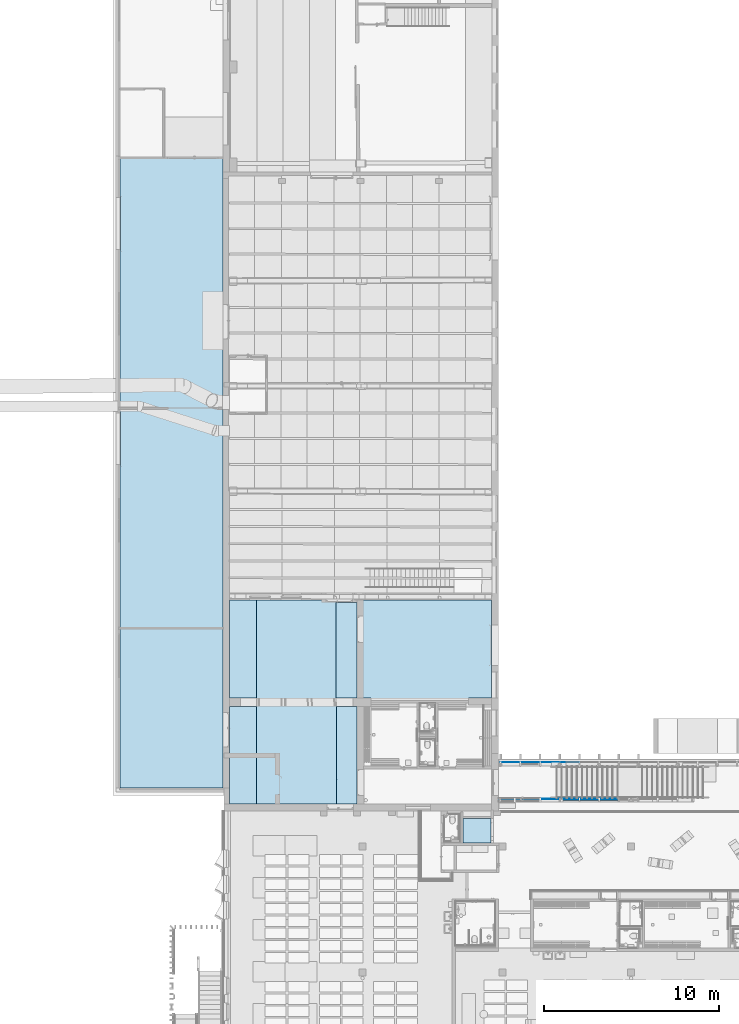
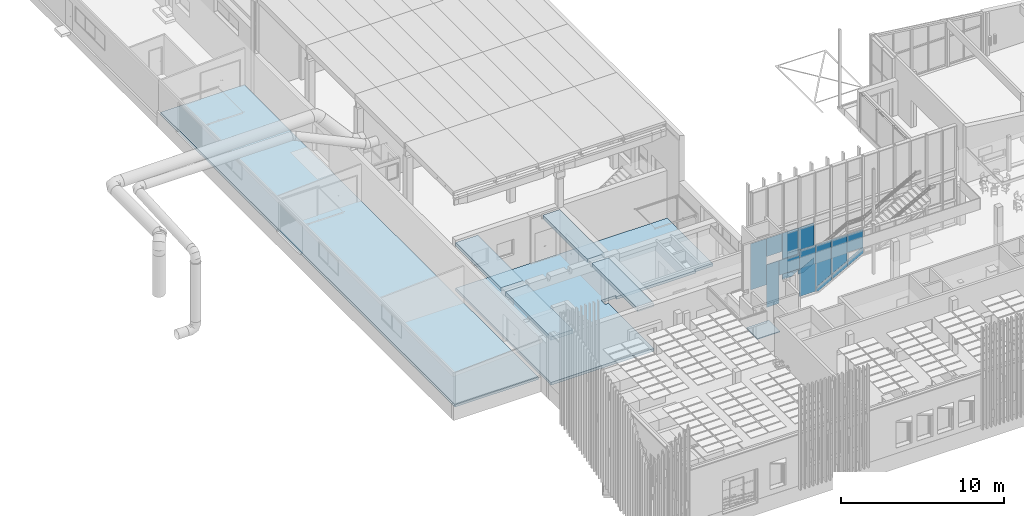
# One storey, part 73 of 301: 14 plates, 6 slabs, 2 elements without a shape of their own.
"""IFC2X3 building model written with IfcOpenShell, lengths in millimetres."""

from ifc_helpers import new_model, entity, si_unit, converted_unit, derived_unit, money_unit, direction, frame, origin_with_axes, place, context, subcontext, project, spatial, faceted_brep, material, type_object, element, aggregate, save


model = new_model("IFC2X3")

# Units and contexts
model_context = context("Model", 3, precision=0.01, world=origin_with_axes(), true_north=direction((0.0, 1.0)))
body_context = subcontext(model_context, "Body", "Model", "MODEL_VIEW")
ifc_project = project(units=[si_unit("LENGTHUNIT", "METRE", prefix="MILLI"), si_unit("AREAUNIT", "SQUARE_METRE"), si_unit("VOLUMEUNIT", "CUBIC_METRE"), converted_unit("PLANEANGLEUNIT", "DEGREE", entity("IfcPlaneAngleMeasure", 0.0174532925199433), si_unit("PLANEANGLEUNIT", "RADIAN"), dimensions=[0, 0, 0, 0, 0, 0, 0]), money_unit("EUR"), converted_unit("TIMEUNIT", "Year", entity("IfcTimeMeasure", 31557600.0), si_unit("TIMEUNIT", "SECOND"), dimensions=[0, 0, 1, 0, 0, 0, 0]), si_unit("MASSUNIT", "GRAM", prefix="KILO"), si_unit("THERMODYNAMICTEMPERATUREUNIT", "DEGREE_CELSIUS"), si_unit("LUMINOUSINTENSITYUNIT", "LUMEN"), si_unit("ENERGYUNIT", "JOULE", prefix="MEGA"), derived_unit("THERMALCONDUCTANCEUNIT", [(si_unit("POWERUNIT", "WATT"), 1), (si_unit("LENGTHUNIT", "METRE"), -1), (si_unit("THERMODYNAMICTEMPERATUREUNIT", "KELVIN"), -1)]), derived_unit("SPECIFICHEATCAPACITYUNIT", [(si_unit("ENERGYUNIT", "JOULE"), 1), (si_unit("MASSUNIT", "GRAM", prefix="KILO"), -1), (si_unit("THERMODYNAMICTEMPERATUREUNIT", "KELVIN"), -1)]), derived_unit("MASSDENSITYUNIT", [(si_unit("MASSUNIT", "GRAM", prefix="KILO"), 1), (si_unit("VOLUMEUNIT", "CUBIC_METRE"), -1)])], contexts=[model_context])

# Site, building, storey
site_placement = place(None, frame((0.0, 0.0, 8650.0), z_axis=(0.0, 0.0, 1.0), x_axis=(1.0, 0.0, 0.0)))
site = spatial("IfcSite", under=ifc_project, at=site_placement, Name="43301:001:0844", CompositionType="ELEMENT")
building_placement = place(site_placement, origin_with_axes())
building = spatial("IfcBuilding", under=site, at=building_placement, Name="Kuressaare Ametikooli tuulikute mehaanikute õppekorpus", CompositionType="ELEMENT")
storey_placement = place(building_placement, origin_with_axes())
storey = spatial("IfcBuildingStorey", under=building, at=storey_placement, Name="1.korrus", CompositionType="ELEMENT", Elevation=0.0)

# Curtain wall, plates
curtain_wall_type = type_object("IfcCurtainWallType", Name="Curtain Wall Type", PredefinedType="NOTDEFINED")
curtain_wall_1_placement = place(storey_placement, frame((116704.6026822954, 28579.57374875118, 35.00000000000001), z_axis=(0.0, 0.0, 1.0), x_axis=(1.0, 0.0, 0.0)))
curtain_wall_1 = element("IfcCurtainWall", 1, at=curtain_wall_1_placement, inside=storey, type_object=curtain_wall_type, Name="KF-1.1")
ifc_material_1 = material(Name="Klaas")
plate_type_1 = type_object("IfcPlateType", Name="Main Panel 1115 x 3460 x 20", PredefinedType="NOTDEFINED")
plate_1_placement = place(curtain_wall_1_placement, frame((-12262.5, 0.0, 1807.999995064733), z_axis=(0.0, 0.0, 1.0), x_axis=(-1.0, 0.0, 0.0)))
plate_1 = element("IfcPlate", 2, at=plate_1_placement, type_object=plate_type_1, material=ifc_material_1, context=body_context, shape_type="Brep", body=[
    faceted_brep([(-444.9999905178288, 10.00000000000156, 1656.999990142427), (-444.9999905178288, -10.00000000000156, 1656.999990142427), (669.9999771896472, -10.00000000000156, 1656.999990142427), (669.9999771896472, 10.00000000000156, 1656.999990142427), (-444.9999905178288, 10.00000000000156, 291.9999677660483), (-444.9999905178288, -10.00000000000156, 291.9999677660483), (-444.9999905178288, -10.00000000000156, -1802.999972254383), (669.9999771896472, -10.00000000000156, -1802.999972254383), (669.9999771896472, 10.00000000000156, -1802.999972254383), (-444.9999905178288, 10.00000000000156, -1802.999972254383)], [[[0, 1, 2, 3]], [[4, 5, 1, 0]], [[1, 5, 6, 7, 2]], [[3, 2, 7, 8]], [[0, 3, 8, 9, 4]], [[9, 6, 5, 4]], [[8, 7, 6, 9]]]),
])
ifc_material_2 = material(Name="Aluminium")
plate_type_2 = type_object("IfcPlateType", Name="361 x 252 x 20", PredefinedType="NOTDEFINED")
plate_2_placement = place(curtain_wall_1_placement, frame((-9039.065135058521, 0.0, 308.7724812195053), z_axis=(0.0, 0.0, 1.0), x_axis=(-1.0, 0.0, 0.0)))
plate_2 = element("IfcPlate", 3, at=plate_2_placement, type_object=plate_type_2, material=ifc_material_2, context=body_context, shape_type="Brep", body=[
    faceted_brep([(-596.5651406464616, 10.00000000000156, 554.5637485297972), (-596.5651406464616, -10.00000000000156, 554.5637485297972), (518.4348705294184, -10.00000000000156, -51.65177387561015), (518.4348705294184, 10.00000000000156, -51.65177387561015), (-596.5651406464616, 10.00000000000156, 106.2233166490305), (-596.5651406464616, -10.00000000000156, 106.2233166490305), (157.5319040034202, -10.00000000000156, -303.7724868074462), (518.4348705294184, -10.00000000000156, -303.7724868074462), (518.4348705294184, 10.00000000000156, -303.7724868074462), (157.5319040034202, 10.00000000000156, -303.7724868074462)], [[[0, 1, 2, 3]], [[4, 5, 1, 0]], [[1, 5, 6, 7, 2]], [[3, 2, 7, 8]], [[0, 3, 8, 9, 4]], [[9, 6, 5, 4]], [[8, 7, 6, 9]]]),
])
plate_type_3 = type_object("IfcPlateType", Name="Main Panel 1115 x 1360 x 20", PredefinedType="NOTDEFINED")
plate_3_placement = place(curtain_wall_1_placement, frame((-11250.0, 0.0, 2784.999983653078), z_axis=(0.0, 0.0, 1.0), x_axis=(-1.0, 0.0, 0.0)))
plate_3 = element("IfcPlate", 4, at=plate_3_placement, type_object=plate_type_3, material=ifc_material_1, context=body_context, shape_type="Brep", body=[
    faceted_brep([(-557.5000069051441, 10.00000000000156, 680.000016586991), (-557.5000069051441, -10.00000000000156, 680.000016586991), (557.4999922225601, -10.00000000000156, 680.000016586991), (557.4999922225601, 10.00000000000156, 680.000016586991), (-557.5000069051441, 10.00000000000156, -680.0000165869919), (-557.5000069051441, -10.00000000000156, -680.0000165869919), (557.4999922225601, -10.00000000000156, -680.0000165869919), (557.4999922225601, 10.00000000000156, -680.0000165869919)], [[[0, 1, 2, 3]], [[4, 5, 1, 0]], [[1, 5, 6, 2]], [[3, 2, 6, 7]], [[0, 3, 7, 4]], [[7, 6, 5, 4]]]),
])
plate_type_4 = type_object("IfcPlateType", Name="Main Panel 1115 x 1365 x 20", PredefinedType="NOTDEFINED")
plate_4_placement = place(curtain_wall_1_placement, frame((-10204.73078716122, 0.0, 1550.015576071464), z_axis=(0.0, 0.0, 1.0), x_axis=(-1.0, 0.0, 0.0)))
plate_4 = element("IfcPlate", 5, at=plate_4_placement, type_object=plate_type_4, material=ifc_material_1, context=body_context, shape_type="Brep", body=[
    faceted_brep([(-637.2307776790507, 10.00000000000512, 1914.984409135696), (-637.2307776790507, -9.99999999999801, 1914.984409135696), (477.7691900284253, -9.99999999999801, 1914.984409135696), (477.7691900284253, 10.00000000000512, 1914.984409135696), (-637.2307776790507, 10.00000000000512, -1286.949297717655), (-637.2307776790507, -9.99999999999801, -1286.949297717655), (-162.5747895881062, -9.99999999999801, -1545.015553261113), (477.7691900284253, -9.99999999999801, -1545.015553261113), (477.7691900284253, -9.99999999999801, 549.9843867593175), (477.7691900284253, 10.00000000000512, 549.9843867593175), (477.7691900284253, 10.00000000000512, -1545.015553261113), (-162.5747895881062, 10.00000000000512, -1545.015553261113)], [[[0, 1, 2, 3]], [[4, 5, 1, 0]], [[1, 5, 6, 7, 8, 2]], [[3, 2, 8, 9]], [[0, 3, 9, 10, 11, 4]], [[11, 6, 5, 4]], [[10, 7, 6, 11]], [[9, 8, 7, 10]]]),
])
plate_type_5 = type_object("IfcPlateType", Name="Main Panel 1115 x 3196 x 20", PredefinedType="NOTDEFINED")
plate_5_placement = place(curtain_wall_1_placement, frame((-9000.0, 0.0, 2017.959848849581), z_axis=(0.0, 0.0, 1.0), x_axis=(-1.0, 0.0, 0.0)))
plate_5 = element("IfcPlate", 6, at=plate_5_placement, type_object=plate_type_5, material=ifc_material_1, context=body_context, shape_type="Brep", body=[
    faceted_brep([(-557.4999725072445, 10.00000000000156, 1447.040134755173), (-557.4999725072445, -10.00000000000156, 1447.040134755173), (557.4999755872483, -10.00000000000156, 1447.040134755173), (557.4999755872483, 10.00000000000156, 1447.040134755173), (-557.4999725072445, 10.00000000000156, -1143.241191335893), (-557.4999725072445, -10.00000000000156, -1143.241191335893), (557.4999755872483, -10.00000000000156, -1749.456647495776), (557.4999755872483, 10.00000000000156, -1749.456647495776)], [[[0, 1, 2, 3]], [[4, 5, 1, 0]], [[1, 5, 6, 2]], [[3, 2, 6, 7]], [[0, 3, 7, 4]], [[7, 6, 5, 4]]]),
])
aggregate(curtain_wall_1, [plate_1, plate_2, plate_3, plate_4, plate_5])

# Slabs
ifc_material_3 = material(Name="GENEERILINE - KONSTRUKTRIOON")
slab_type_1 = type_object("IfcSlabType", Name="GENEERILINE - KONSTRUKTRIOON 200", PredefinedType="NOTDEFINED")
slab_1_placement = place(storey_placement, frame((88258.75644683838, 26183.06892395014, 0.0), z_axis=(0.0, 0.0, 1.0), x_axis=(1.0, 0.0, 0.0)))
element("IfcSlab", 7, at=slab_1_placement, inside=storey, type_object=slab_type_1, material=ifc_material_3, PredefinedType="NOTDEFINED", context=body_context, shape_type="Brep", body=[
    faceted_brep([(7289.144686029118, 5571.776691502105, 0.0), (7057.827577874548, 5571.776691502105, 0.0), (7057.827577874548, 6071.776691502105, 0.0), (7289.144687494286, 6071.776691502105, 0.0), (8087.839314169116, 6071.776696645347, 0.0), (8087.839277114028, 5930.940563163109, 0.0), (13661.00525244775, 5930.94057494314, 0.0), (13661.00525245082, 6060.940572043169, 0.0), (14968.75576019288, 6060.940574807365, 0.0), (14968.75576019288, 11662.70274093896, 0.0), (0.0, 11662.70274093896, 0.0), (0.0, 0.0, 0.0), (7289.144669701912, 0.0, 0.0), (7057.827577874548, 5571.776691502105, -199.9999999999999), (7289.144686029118, 5571.776691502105, -199.9999999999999), (7057.827577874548, 6071.776691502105, -199.9999999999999), (7289.144687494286, 6071.776691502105, -199.9999999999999), (8087.839314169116, 6071.776696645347, -199.9999999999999), (8087.839277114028, 5930.940563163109, -199.9999999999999), (13661.00525244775, 5930.94057494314, -199.9999999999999), (13661.00525245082, 6060.940572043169, -199.9999999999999), (14968.75576019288, 6060.940574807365, -199.9999999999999), (14968.75576019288, 11662.70274093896, -199.9999999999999), (0.0, 11662.70274093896, -199.9999999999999), (0.0, 0.0, -199.9999999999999), (7289.144669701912, 0.0, -199.9999999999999)], [[[0, 1, 2, 3, 4, 5, 6, 7, 8, 9, 10, 11, 12]], [[13, 1, 0, 14]], [[15, 2, 1, 13]], [[15, 16, 3, 2]], [[4, 3, 16, 17]], [[5, 4, 17, 18]], [[6, 5, 18, 19]], [[7, 6, 19, 20]], [[8, 7, 20, 21]], [[9, 8, 21, 22]], [[10, 9, 22, 23]], [[11, 10, 23, 24]], [[12, 11, 24, 25]], [[25, 14, 0, 12]], [[15, 13, 14, 25, 24, 23, 22, 21, 20, 19, 18, 17, 16]]]),
])
slab_2_placement = place(storey_placement, frame((81991.88862698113, 27098.90708923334, 0.0), z_axis=(0.0, 0.0, 1.0), x_axis=(1.0, 0.0, 0.0)))
element("IfcSlab", 8, at=slab_2_placement, inside=storey, type_object=slab_type_1, material=ifc_material_3, PredefinedType="NOTDEFINED", context=body_context, shape_type="Brep", body=[
    faceted_brep([(0.0, 0.0, 0.0), (0.0, 0.0, -200.0), (5906.86781985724, 0.0, -200.0), (5906.86781985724, 0.0, 0.0), (0.0, 36069.70297040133, 0.0), (0.0, 36069.70297040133, -200.0), (5906.86781985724, 36069.70297040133, -200.0), (5906.86781985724, 36069.70297040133, 0.0)], [[[0, 1, 2, 3]], [[4, 5, 1, 0]], [[2, 1, 5, 6]], [[3, 2, 6, 7]], [[4, 0, 3, 7]], [[7, 6, 5, 4]]]),
])

# Curtain wall, plates
curtain_wall_2_placement = place(storey_placement, frame((105155.4360221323, 26479.57374875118, 34.99996632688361), z_axis=(0.0, 0.0, 1.0), x_axis=(1.0, 0.0, 0.0)))
curtain_wall_2 = element("IfcCurtainWall", 9, at=curtain_wall_2_placement, inside=storey, type_object=curtain_wall_type, Name="SKF-1.1,EI60")
plate_type_6 = type_object("IfcPlateType", Name="Main Panel 70 x 3200 x 40", PredefinedType="NOTDEFINED")
plate_6_placement = place(curtain_wall_2_placement, frame((-1071.190495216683, 0.0, 1675.768449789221), z_axis=(0.0, 0.0, 1.0), x_axis=(-1.0, 0.0, 0.0)))
plate_6 = element("IfcPlate", 10, at=plate_6_placement, type_object=plate_type_6, material=ifc_material_1, context=body_context, shape_type="Brep", body=[
    faceted_brep([(-467.8571665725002, 20.00000000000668, 1529.231489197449), (-467.8571665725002, -19.99999999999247, 1529.231489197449), (317.1428654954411, -19.99999999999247, 1529.231489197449), (317.1428654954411, 20.00000000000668, 1529.231489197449), (-467.8571665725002, 20.00000000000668, 424.61086396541), (-467.8571665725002, -19.99999999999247, 424.61086396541), (-467.8571665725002, -19.99999999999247, -1670.768442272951), (317.1428654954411, -19.99999999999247, -1670.768442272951), (387.1428750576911, -19.99999999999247, -1670.768442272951), (387.1429707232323, -19.99999999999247, 1529.231489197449), (387.1429707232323, 20.00000000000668, 1529.231489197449), (387.1428750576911, 20.00000000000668, -1670.768442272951), (317.1428654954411, 20.00000000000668, -1670.768442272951), (-467.8571665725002, 20.00000000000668, -1670.768442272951)], [[[0, 1, 2, 3]], [[4, 5, 1, 0]], [[1, 5, 6, 7, 8, 9, 2]], [[3, 2, 9, 10]], [[0, 3, 10, 11, 12, 13, 4]], [[13, 6, 5, 4]], [[12, 7, 6, 13]], [[11, 8, 7, 12]], [[10, 9, 8, 11]]]),
])
plate_type_7 = type_object("IfcPlateType", Name="Main Panel 1115 x 1341 x 40", PredefinedType="NOTDEFINED")
plate_7_placement = place(curtain_wall_2_placement, frame((4910.666659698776, 0.0, 2652.130075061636), z_axis=(0.0, 0.0, 1.0), x_axis=(-1.0, 0.0, 0.0)))
plate_7 = element("IfcPlate", 11, at=plate_7_placement, type_object=plate_type_7, material=ifc_material_1, context=body_context, shape_type="Brep", body=[
    faceted_brep([(-446.0000061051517, 20.00000000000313, 802.8698866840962), (-446.0000061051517, -19.99999999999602, 802.8698866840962), (669.0000041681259, -19.99999999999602, 802.8698866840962), (669.0000041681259, 20.00000000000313, 802.8698866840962), (-446.0000061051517, 20.00000000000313, -533.5811876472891), (-446.0000061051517, -19.99999999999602, -533.5811876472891), (-446.0000061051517, -19.99999999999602, -538.5811830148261), (669.0000041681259, -19.99999999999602, -538.5773909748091), (669.0000041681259, 20.00000000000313, -538.5773909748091), (-446.0000061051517, 20.00000000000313, -538.5811830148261)], [[[0, 1, 2, 3]], [[4, 5, 1, 0]], [[1, 5, 6, 7, 2]], [[3, 2, 7, 8]], [[0, 3, 8, 9, 4]], [[9, 6, 5, 4]], [[8, 7, 6, 9]]]),
])
plate_type_8 = type_object("IfcPlateType", Name="Main Panel 1115 x 2575 x 40", PredefinedType="NOTDEFINED")
plate_8_placement = place(curtain_wall_2_placement, frame((3786.666660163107, 0.0, 2277.714040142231), z_axis=(0.0, 0.0, 1.0), x_axis=(-1.0, 0.0, 0.0)))
plate_8 = element("IfcPlate", 12, at=plate_8_placement, type_object=plate_type_8, material=ifc_material_1, context=body_context, shape_type="Brep", body=[
    faceted_brep([(-444.9999873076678, 20.00000000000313, 1177.285919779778), (-444.9999873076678, -19.99999999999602, 1177.285919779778), (670.0000028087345, -19.99999999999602, 1177.285919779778), (670.0000028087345, 20.00000000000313, 1177.285919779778), (-444.9999873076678, 20.00000000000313, -164.161327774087), (-444.9999873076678, -19.99999999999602, -164.161327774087), (-444.9999873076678, -19.99999999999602, -791.3639545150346), (670.0000028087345, -19.99999999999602, -1397.663740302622), (670.0000028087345, 20.00000000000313, -1397.663740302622), (-444.9999873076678, 20.00000000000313, -791.3639545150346)], [[[0, 1, 2, 3]], [[4, 5, 1, 0]], [[1, 5, 6, 7, 2]], [[3, 2, 7, 8]], [[0, 3, 8, 9, 4]], [[9, 6, 5, 4]], [[8, 7, 6, 9]]]),
])
plate_type_9 = type_object("IfcPlateType", Name="Distinct Panel 182 x 252 x 150", PredefinedType="NOTDEFINED")
plate_9_placement = place(curtain_wall_2_placement, frame((2474.390030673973, 0.0, 328.1433234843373), z_axis=(0.0, 0.0, 1.0), x_axis=(-1.0, 0.0, 0.0)))
plate_9 = element("IfcPlate", 13, at=plate_9_placement, type_object=plate_type_9, material=ifc_material_2, context=body_context, shape_type="Brep", body=[
    faceted_brep([(-632.2766350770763, 75.00000000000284, 535.0865062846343), (-632.2766350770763, -74.99999999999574, 535.0865062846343), (482.7233760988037, -74.99999999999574, -71.21323756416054), (482.7233760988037, 75.00000000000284, -71.21323756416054), (-632.2766350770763, 75.00000000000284, 184.0031498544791), (-632.2766350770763, -74.99999999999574, 184.0031498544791), (300.3780335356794, -74.99999999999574, -323.1433290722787), (482.7233760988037, -74.99999999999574, -323.1433290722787), (482.7233760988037, 75.00000000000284, -323.1433290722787), (300.3780335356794, 75.00000000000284, -323.1433290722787)], [[[0, 1, 2, 3]], [[4, 5, 1, 0]], [[1, 5, 6, 7, 2]], [[3, 2, 7, 8]], [[0, 3, 8, 9, 4]], [[9, 6, 5, 4]], [[8, 7, 6, 9]]]),
])
plate_type_10 = type_object("IfcPlateType", Name="Main Panel 1115 x 245 x 40", PredefinedType="NOTDEFINED")
plate_10_placement = place(curtain_wall_2_placement, frame((1343.809517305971, 0.0, 1784.325976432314), z_axis=(0.0, 0.0, 1.0), x_axis=(-1.0, 0.0, 0.0)))
plate_10 = element("IfcPlate", 14, at=plate_10_placement, type_object=plate_type_10, material=ifc_material_1, context=body_context, shape_type="Brep", body=[
    faceted_brep([(-637.8571408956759, 20.00000000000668, 1670.673982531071), (-637.8571408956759, -19.99999999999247, 1670.673982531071), (477.1428589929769, -19.99999999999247, 1670.673982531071), (477.1428589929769, 20.00000000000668, 1670.673982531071), (-637.8571408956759, 20.00000000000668, -1524.42331115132), (-637.8571408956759, -19.99999999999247, -1524.42331115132), (-637.8571408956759, -19.99999999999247, -1779.325978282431), (477.1428589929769, -19.99999999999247, -1779.325978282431), (477.1428589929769, -19.99999999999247, 316.0533325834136), (477.1428589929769, -19.99999999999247, 1425.673970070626), (477.1428589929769, 20.00000000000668, 1425.673970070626), (477.1428589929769, 20.00000000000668, 316.0533325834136), (477.1428589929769, 20.00000000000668, -1779.325978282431), (-637.8571408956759, 20.00000000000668, -1779.325978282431)], [[[0, 1, 2, 3]], [[4, 5, 1, 0]], [[1, 5, 6, 7, 8, 9, 2]], [[3, 2, 9, 10]], [[0, 3, 10, 11, 12, 13, 4]], [[13, 6, 5, 4]], [[12, 7, 6, 13]], [[11, 8, 7, 12]], [[10, 9, 8, 11]]]),
])
plate_type_11 = type_object("IfcPlateType", Name="Distinct Panel 150", PredefinedType="NOTDEFINED")
plate_11_placement = place(curtain_wall_2_placement, frame((3786.52806292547, 0.0, 1021.127462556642), z_axis=(0.0, 0.0, 1.0), x_axis=(-1.0, 0.0, 0.0)))
plate_11 = element("IfcPlate", 15, at=plate_11_placement, type_object=plate_type_11, material=ifc_material_2, context=body_context, shape_type="Brep", body=[
    faceted_brep([(-445.1386028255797, 75.00000000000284, 453.8398494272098), (-445.1386028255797, -74.99999999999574, 453.8398494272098), (669.8614083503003, -74.99999999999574, -152.4599782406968), (669.8614083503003, 75.00000000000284, -152.4599782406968), (-445.1386028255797, 75.00000000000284, 102.756425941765), (-445.1386028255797, -74.99999999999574, 102.756425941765), (669.8614083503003, -74.99999999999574, -503.543334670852), (669.8614083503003, 75.00000000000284, -503.543334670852)], [[[0, 1, 2, 3]], [[4, 5, 1, 0]], [[1, 5, 6, 2]], [[3, 2, 6, 7]], [[0, 3, 7, 4]], [[7, 6, 5, 4]]]),
])
plate_12_placement = place(curtain_wall_2_placement, frame((4986.504844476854, 0.0, 1652.312186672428), z_axis=(0.0, 0.0, 1.0), x_axis=(-1.0, 0.0, 0.0)))
plate_12 = element("IfcPlate", 16, at=plate_12_placement, type_object=plate_type_11, material=ifc_material_2, context=body_context, shape_type="Brep", body=[
    faceted_brep([(-370.1618212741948, 75.00000000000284, 434.3924956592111), (-370.1618212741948, -74.99999999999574, 434.3924956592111), (744.8381899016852, -74.99999999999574, -171.907231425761), (744.8381899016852, 75.00000000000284, -171.907231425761), (-370.1618212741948, 75.00000000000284, 97.38769897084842), (-370.1618212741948, -74.99999999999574, 97.38769897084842), (-370.1618212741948, -74.99999999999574, 83.30908893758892), (744.8381899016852, -74.99999999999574, -522.9906381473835), (744.8381899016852, 75.00000000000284, -522.9906381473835), (-370.1618212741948, 75.00000000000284, 83.30908893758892)], [[[0, 1, 2, 3]], [[4, 5, 1, 0]], [[1, 5, 6, 7, 2]], [[3, 2, 7, 8]], [[0, 3, 8, 9, 4]], [[9, 6, 5, 4]], [[8, 7, 6, 9]]]),
])
plate_type_12 = type_object("IfcPlateType", Name="Main Panel 1115 x 3187 x 40", PredefinedType="NOTDEFINED")
plate_13_placement = place(curtain_wall_2_placement, frame((2549.16666016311, 0.0, 2012.885657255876), z_axis=(0.0, 0.0, 1.0), x_axis=(-1.0, 0.0, 0.0)))
plate_13 = element("IfcPlate", 17, at=plate_13_placement, type_object=plate_type_12, material=ifc_material_1, context=body_context, shape_type="Brep", body=[
    faceted_brep([(-557.5000067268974, 19.99999999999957, 1442.114322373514), (-557.5000067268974, -19.99999999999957, 1442.114322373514), (557.5000225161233, -19.99999999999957, 1442.114322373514), (557.5000225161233, 19.99999999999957, 1442.114322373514), (-557.5000067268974, 19.99999999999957, -1138.272988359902), (-557.5000067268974, -19.99999999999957, -1138.272988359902), (557.5000225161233, -19.99999999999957, -1744.572774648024), (557.5000225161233, 19.99999999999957, -1744.572774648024)], [[[0, 1, 2, 3]], [[4, 5, 1, 0]], [[1, 5, 6, 2]], [[3, 2, 6, 7]], [[0, 3, 7, 4]], [[7, 6, 5, 4]]]),
])
plate_type_13 = type_object("IfcPlateType", Name="Main Panel 330 x 1100 x 40", PredefinedType="NOTDEFINED")
plate_14_placement = place(curtain_wall_2_placement, frame((3.350919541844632e-08, 0.0, 2655.189627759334), z_axis=(0.0, 0.0, 1.0), x_axis=(-1.0, 0.0, 0.0)))
plate_14 = element("IfcPlate", 18, at=plate_14_placement, type_object=plate_type_13, material=ifc_material_1, Name="AU10+3,EI30", context=body_context, shape_type="Brep", body=[
    faceted_brep([(-856.6666527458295, 20.00000000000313, 549.8103269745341), (-856.6666527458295, -19.99999999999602, 549.8103269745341), (263.3333477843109, -19.99999999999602, 549.8103269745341), (263.3333477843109, 20.00000000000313, 549.8103269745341), (-856.6666527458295, 20.00000000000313, -549.8103113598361), (-856.6666527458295, -19.99999999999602, -549.8103113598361), (263.3333477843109, -19.99999999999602, -549.8103113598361), (593.3333129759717, -19.99999999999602, -549.8103113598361), (593.3333129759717, -19.99999999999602, 549.8103269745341), (593.3333129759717, 20.00000000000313, 549.8103269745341), (593.3333129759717, 20.00000000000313, -549.8103113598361), (263.3333477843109, 20.00000000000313, -549.8103113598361)], [[[0, 1, 2, 3]], [[4, 5, 1, 0]], [[1, 5, 6, 7, 8, 2]], [[3, 2, 8, 9]], [[0, 3, 9, 10, 11, 4]], [[11, 6, 5, 4]], [[10, 7, 6, 11]], [[9, 8, 7, 10]]]),
])
aggregate(curtain_wall_2, [plate_6, plate_7, plate_8, plate_13, plate_9, plate_10, plate_11, plate_12, plate_14])

# Slabs
ifc_material_4 = material(Name="Concrete - Structural")
slab_type_2 = type_object("IfcSlabType", Name="Concrete - Structural 60", PredefinedType="NOTDEFINED")
slab_3_placement = place(storey_placement, frame((101615.6546914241, 25354.06964326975, -60.00000000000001), z_axis=(0.0, 0.0, 1.0), x_axis=(1.0, 0.0, 0.0)))
element("IfcSlab", 19, at=slab_3_placement, inside=storey, type_object=slab_type_2, material=ifc_material_4, PredefinedType="NOTDEFINED", context=body_context, shape_type="Brep", body=[
    faceted_brep([(1590.00000000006, 0.0, -60.00000000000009), (1.458890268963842, 0.0, -60.00000000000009), (1.458890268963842, 0.0, 0.0), (1590.00000000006, 0.0, 0.0), (1590.00000000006, -1380.000000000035, -60.00000000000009), (0.0, -1380.000000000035, -60.00000000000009), (0.0, -1380.000000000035, 0.0), (1590.00000000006, -1380.000000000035, 0.0)], [[[0, 1, 2, 3]], [[4, 5, 1, 0]], [[5, 6, 2, 1]], [[3, 2, 6, 7]], [[3, 7, 4, 0]], [[7, 6, 5, 4]]]),
])
slab_type_3 = type_object("IfcSlabType", Name="GENEERILINE - KONSTRUKTRIOON 265", PredefinedType="NOTDEFINED")
slab_4_placement = place(storey_placement, frame((88258.75644683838, 37845.7716648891, 3410.0), z_axis=(0.0, 0.0, 1.0), x_axis=(1.0, 0.0, 0.0)))
element("IfcSlab", 20, at=slab_4_placement, inside=storey, type_object=slab_type_3, material=ifc_material_3, PredefinedType="NOTDEFINED", context=body_context, shape_type="Brep", body=[
    faceted_brep([(1558.995952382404, -11662.70274808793, -265.0000000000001), (1558.995971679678, -6085.408363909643, -265.0001340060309), (1558.995971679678, -6085.408363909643, 0.0), (1558.995980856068, -7342.560693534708, 0.0), (1558.995952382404, -7342.571348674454, -101.9474782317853), (1558.995952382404, -7362.564656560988, -101.9474782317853), (1558.995952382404, -7383.304688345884, -14.37019773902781), (1558.995952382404, -7387.879318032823, -5.574334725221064), (1558.995980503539, -7396.078194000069, 0.0), (1558.995952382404, -11662.70274808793, 0.0), (0.0, -11662.70272570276, -265.0000000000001), (0.0, -6083.907087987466, -265.0000000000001), (0.0, -6083.907087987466, 0.0), (0.0, -11662.70272570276, 0.0), (1558.852967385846, -7396.077811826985, 0.0), (1558.942524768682, -7362.564513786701, -101.9474782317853), (1558.874877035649, -7387.878994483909, -5.574334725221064), (1558.887101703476, -7383.304397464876, -14.37019773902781)], [[[0, 1, 2, 3, 4, 5, 6, 7, 8, 9]], [[10, 11, 1, 0]], [[11, 12, 2, 1]], [[3, 2, 12, 13, 9, 8, 14]], [[15, 4, 3, 14, 16, 17]], [[15, 5, 4]], [[17, 6, 5, 15]], [[16, 7, 6, 17]], [[14, 8, 7, 16]], [[9, 13, 10, 0]], [[13, 12, 11, 10]]]),
    faceted_brep([(0.0, 0.0, 0.0), (0.0, -5583.906856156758, 0.0), (1558.995971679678, -5585.408132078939, 0.0), (1558.996000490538, -4363.570821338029, 0.0), (1558.852967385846, -4363.570439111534, 0.0), (1558.996000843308, -4310.045841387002, 0.0), (1558.99601018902, -2892.091531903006, 0.0), (1558.852967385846, -2892.09114965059, 0.0), (1558.996010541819, -2838.562922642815, 0.0), (1558.996020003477, -1403.017785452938, 0.0), (1558.852967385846, -1403.017403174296, 0.0), (1558.996020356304, -1349.485503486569, 0.0), (1558.99602925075, 0.0, 0.0), (0.0, 0.0, -265.0000000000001), (0.0, -5583.906856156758, -265.0000000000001), (1558.995971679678, -5585.408132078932, -265.0001340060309), (1558.99602925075, 0.0, -265.0000000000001), (1558.995952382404, -1349.510940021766, -101.9474782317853), (1558.995952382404, -1369.504247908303, -101.9474782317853), (1558.995952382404, -1390.244279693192, -14.37019773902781), (1558.995952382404, -1394.818909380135, -5.574334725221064), (1558.995952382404, -2838.584686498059, -101.9474782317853), (1558.995952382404, -2858.577994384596, -101.9474782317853), (1558.995952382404, -2879.318026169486, -14.37019773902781), (1558.995952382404, -2883.892655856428, -5.574334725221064), (1558.995952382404, -4310.063975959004, -101.9474782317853), (1558.995952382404, -4330.057283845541, -101.9474782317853), (1558.995952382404, -4350.797315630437, -14.37019773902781), (1558.995952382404, -4355.371945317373, -5.574334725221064), (1558.874877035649, -4355.371621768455, -5.574334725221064), (1558.942524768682, -4330.057141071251, -101.9474782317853), (1558.887101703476, -4350.797024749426, -14.37019773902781), (1558.874877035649, -2883.892332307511, -5.574334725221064), (1558.942524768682, -2858.577851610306, -101.9474782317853), (1558.887101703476, -2879.317735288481, -14.37019773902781), (1558.874877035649, -1394.818585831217, -5.574334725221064), (1558.942524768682, -1369.504105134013, -101.9474782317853), (1558.887101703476, -1390.243988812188, -14.37019773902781)], [[[0, 1, 2, 3, 4, 5, 6, 7, 8, 9, 10, 11, 12]], [[13, 14, 1, 0]], [[14, 15, 2, 1]], [[3, 2, 15, 16, 12, 11, 17, 18, 19, 20, 9, 8, 21, 22, 23, 24, 6, 5, 25, 26, 27, 28]], [[4, 3, 28, 29]], [[30, 25, 5, 4, 29, 31]], [[7, 6, 24, 32]], [[33, 21, 8, 7, 32, 34]], [[10, 9, 20, 35]], [[36, 17, 11, 10, 35, 37]], [[0, 12, 16, 13]], [[16, 15, 14, 13]], [[36, 18, 17]], [[37, 19, 18, 36]], [[35, 20, 19, 37]], [[33, 22, 21]], [[34, 23, 22, 33]], [[32, 24, 23, 34]], [[30, 26, 25]], [[31, 27, 26, 30]], [[29, 28, 27, 31]]]),
])
slab_5_placement = place(storey_placement, frame((95547.90111654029, 37705.7716648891, 3410.0), z_axis=(0.0, 0.0, 1.0), x_axis=(1.0, 0.0, 0.0)))
element("IfcSlab", 21, at=slab_5_placement, inside=storey, type_object=slab_type_3, material=ifc_material_3, PredefinedType="NOTDEFINED", context=body_context, shape_type="Brep", body=[
    faceted_brep([(-1200.148700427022, -1168.095143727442, 0.0), (-1200.005693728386, -1168.095525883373, 0.0), (-1200.148700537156, -1221.610151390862, 0.0), (-1200.148703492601, -2657.168890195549, 0.0), (-1200.0056937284, -2657.169272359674, 0.0), (-1200.148703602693, -2710.685045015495, 0.0), (-1200.148706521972, -4128.648179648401, 0.0), (-1200.005693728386, -4128.648561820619, 0.0), (-1200.148706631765, -4182.165467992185, 0.0), (-1200.148709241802, -5449.770413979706, 0.0), (-7.782514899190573e-05, -5450.926128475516, 0.0), (0.0, 0.0, 0.0), (-1200.148698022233, 0.0, 0.0), (-1200.02760320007, -1176.29427657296, -5.57425973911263), (-1200.14870044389, -1176.29395296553, -5.57425973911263), (-1200.148700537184, -1221.610151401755, -101.9474782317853), (-1200.039827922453, -1180.868894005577, -14.37000248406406), (-1200.095253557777, -1201.609739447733, -101.9474782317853), (-1200.148700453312, -1180.868603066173, -14.37000248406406), (-1200.148698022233, 0.0, -265.0000000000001), (-1200.148709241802, -5449.770413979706, -265.0000000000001), (-1200.148706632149, -4182.165468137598, -101.9474782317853), (-1200.14870659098, -4162.16263254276, -101.9474782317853), (-1200.148706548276, -4141.421638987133, -14.37000248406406), (-1200.148706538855, -4136.846988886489, -5.57425973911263), (-1200.148703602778, -2710.685045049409, -101.9474782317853), (-1200.148703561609, -2690.683343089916, -101.9474782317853), (-1200.148703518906, -2669.942349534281, -14.37000248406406), (-1200.148703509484, -2665.367699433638, -5.57425973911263), (-1200.148700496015, -1201.609596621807, -101.9474782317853), (-1200.027603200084, -2665.368023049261, -5.57425973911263), (-1200.039827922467, -2669.942640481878, -14.37000248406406), (-1200.095253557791, -2690.683485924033, -101.9474782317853), (-1200.02760320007, -4136.847312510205, -5.57425973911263), (-1200.039827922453, -4141.421929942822, -14.37000248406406), (-1200.095253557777, -4162.162775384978, -101.9474782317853), (-7.782514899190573e-05, -5450.926128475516, -265.0000000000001), (0.0, 0.0, -265.0000000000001)], [[[0, 1, 2, 3, 4, 5, 6, 7, 8, 9, 10, 11, 12]], [[13, 1, 0, 14]], [[15, 2, 1, 13, 16, 17]], [[18, 14, 0, 12, 19, 20, 9, 8, 21, 22, 23, 24, 6, 5, 25, 26, 27, 28, 3, 2, 15, 29]], [[30, 4, 3, 28]], [[25, 5, 4, 30, 31, 32]], [[33, 7, 6, 24]], [[21, 8, 7, 33, 34, 35]], [[10, 9, 20, 36]], [[11, 10, 36, 37]], [[12, 11, 37, 19]], [[13, 14, 18, 16]], [[16, 18, 29, 17]], [[17, 29, 15]], [[20, 19, 37, 36]], [[35, 22, 21]], [[34, 23, 22, 35]], [[33, 24, 23, 34]], [[32, 26, 25]], [[31, 27, 26, 32]], [[30, 28, 27, 31]]]),
])
slab_6_placement = place(storey_placement, frame((95547.90111654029, 31754.84561545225, 3410.0), z_axis=(0.0, 0.0, 1.0), x_axis=(1.0, 0.0, 0.0)))
element("IfcSlab", 22, at=slab_6_placement, inside=storey, type_object=slab_type_3, material=ifc_material_3, PredefinedType="NOTDEFINED", context=body_context, shape_type="Brep", body=[
    faceted_brep([(0.0, -5571.776691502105, -265.0000000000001), (0.0, 0.0, -265.0000000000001), (0.0, 0.0, 0.0), (0.0, -5571.776691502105, 0.0), (-231.3170918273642, 0.2226905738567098, -265.0000000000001), (-231.3170918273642, 0.0, -265.0000000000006), (-1155.148698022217, -5571.776691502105, -265.0000000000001), (-1155.148698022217, 1.112069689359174, -265.0000000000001), (-231.3170918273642, 0.0, 0.0), (-231.3170918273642, 0.2226905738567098, 0.0), (-1155.148698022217, 1.112069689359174, 0.0), (-1155.148698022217, -2668.011304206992, 0.0), (-1155.005693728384, -2668.011686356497, 0.0), (-1155.148698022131, -2721.525370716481, 0.0), (-1155.148698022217, -4140.498021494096, 0.0), (-1155.00569372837, -4140.498403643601, 0.0), (-1155.148698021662, -4194.012087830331, 0.0), (-1155.148698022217, -5571.776691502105, 0.0), (-1155.148698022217, -2701.525757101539, -101.9474782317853), (-1155.148698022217, -2680.784763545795, -14.37000248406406), (-1155.148698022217, -2676.210113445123, -5.57425973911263), (-1155.148698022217, -4194.012088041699, -101.9474782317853), (-1155.148698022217, -4174.012474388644, -101.9474782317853), (-1155.148698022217, -4153.271480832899, -14.37000248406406), (-1155.148698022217, -4148.696830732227, -5.57425973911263), (-1155.148698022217, -2721.525370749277, -101.9474782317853), (-1155.027603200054, -2676.21043704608, -5.57425973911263), (-1155.095253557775, -2701.525899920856, -101.9474782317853), (-1155.039827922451, -2680.785054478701, -14.37000248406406), (-1155.02760320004, -4148.697154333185, -5.57425973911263), (-1155.095253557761, -4174.012617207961, -101.9474782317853), (-1155.039827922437, -4153.271771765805, -14.37000248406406)], [[[0, 1, 2, 3]], [[4, 5, 1, 0, 6, 7]], [[5, 8, 2, 1]], [[2, 8, 9, 10, 11, 12, 13, 14, 15, 16, 17, 3]], [[0, 3, 17, 6]], [[5, 4, 9, 8]], [[18, 19, 20, 11, 10, 7, 6, 17, 16, 21, 22, 23, 24, 14, 13, 25]], [[10, 9, 4, 7]], [[20, 26, 12, 11]], [[27, 25, 13, 12, 26, 28]], [[24, 29, 15, 14]], [[30, 21, 16, 15, 29, 31]], [[27, 28, 19, 18]], [[28, 26, 20, 19]], [[21, 30, 22]], [[30, 31, 23, 22]], [[31, 29, 24, 23]], [[25, 27, 18]]]),
])

save(model, "model.ifc")
